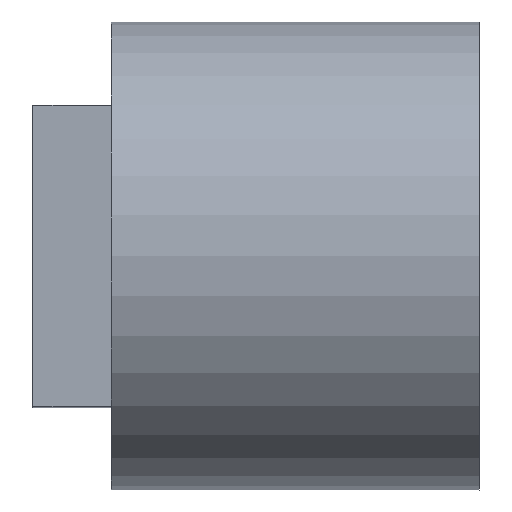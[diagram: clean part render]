
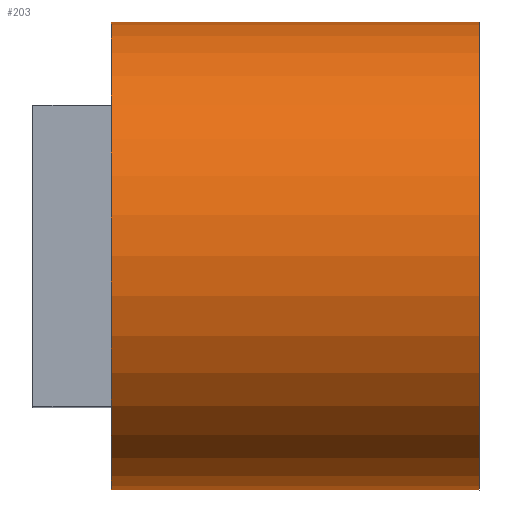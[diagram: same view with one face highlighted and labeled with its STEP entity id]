
A CAD part, top view. The second image highlights one B-rep face of the part: STEP entity #203.
In plain terms, the highlighted cylindrical face has radius 7 mm (diameter 14 mm), a full revolution.
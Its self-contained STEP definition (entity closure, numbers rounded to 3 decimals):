
#64 = VERTEX_POINT('',#65);
#65 = CARTESIAN_POINT('',(-65.375,-4.5,95.688));
#87 = VERTEX_POINT('',#88);
#88 = CARTESIAN_POINT('',(-72.025,-4.5,95.688));
#94 = EDGE_CURVE('',#87,#64,#95,.T.);
#95 = LINE('',#96,#97);
#96 = CARTESIAN_POINT('',(-72.025,-4.5,95.688));
#97 = VECTOR('',#98,1.);
#98 = DIRECTION('',(1.,0.,0.));
#135 = VERTEX_POINT('',#136);
#136 = CARTESIAN_POINT('',(-65.375,4.5,95.688));
#151 = VERTEX_POINT('',#152);
#152 = CARTESIAN_POINT('',(-72.025,4.5,95.688));
#158 = EDGE_CURVE('',#151,#135,#159,.T.);
#159 = LINE('',#160,#161);
#160 = CARTESIAN_POINT('',(-72.025,4.5,95.688));
#161 = VECTOR('',#162,1.);
#162 = DIRECTION('',(1.,0.,0.));
#192 = EDGE_CURVE('',#64,#135,#193,.T.);
#193 = CIRCLE('',#194,7.);
#194 = AXIS2_PLACEMENT_3D('',#195,#196,#197);
#195 = CARTESIAN_POINT('',(-65.375,0.,101.05));
#196 = DIRECTION('',(1.,0.,-0.));
#197 = DIRECTION('',(0.,0.,1.));
#203 = ADVANCED_FACE('',(#204),#241,.T.);
#204 = FACE_BOUND('',#205,.T.);
#205 = EDGE_LOOP('',(#206,#216,#223,#224,#231,#232,#233,#234));
#206 = ORIENTED_EDGE('',*,*,#207,.T.);
#207 = EDGE_CURVE('',#208,#210,#212,.T.);
#208 = VERTEX_POINT('',#209);
#209 = CARTESIAN_POINT('',(-72.025,0.,108.05));
#210 = VERTEX_POINT('',#211);
#211 = CARTESIAN_POINT('',(-61.025,0.,108.05));
#212 = LINE('',#213,#214);
#213 = CARTESIAN_POINT('',(-72.025,0.,108.05));
#214 = VECTOR('',#215,1.);
#215 = DIRECTION('',(1.,0.,0.));
#216 = ORIENTED_EDGE('',*,*,#217,.F.);
#217 = EDGE_CURVE('',#210,#210,#218,.T.);
#218 = CIRCLE('',#219,7.);
#219 = AXIS2_PLACEMENT_3D('',#220,#221,#222);
#220 = CARTESIAN_POINT('',(-61.025,0.,101.05));
#221 = DIRECTION('',(1.,0.,-0.));
#222 = DIRECTION('',(0.,0.,1.));
#223 = ORIENTED_EDGE('',*,*,#207,.F.);
#224 = ORIENTED_EDGE('',*,*,#225,.T.);
#225 = EDGE_CURVE('',#208,#87,#226,.T.);
#226 = CIRCLE('',#227,7.);
#227 = AXIS2_PLACEMENT_3D('',#228,#229,#230);
#228 = CARTESIAN_POINT('',(-72.025,0.,101.05));
#229 = DIRECTION('',(1.,0.,-0.));
#230 = DIRECTION('',(0.,0.,1.));
#231 = ORIENTED_EDGE('',*,*,#94,.T.);
#232 = ORIENTED_EDGE('',*,*,#192,.T.);
#233 = ORIENTED_EDGE('',*,*,#158,.F.);
#234 = ORIENTED_EDGE('',*,*,#235,.T.);
#235 = EDGE_CURVE('',#151,#208,#236,.T.);
#236 = CIRCLE('',#237,7.);
#237 = AXIS2_PLACEMENT_3D('',#238,#239,#240);
#238 = CARTESIAN_POINT('',(-72.025,0.,101.05));
#239 = DIRECTION('',(1.,0.,-0.));
#240 = DIRECTION('',(0.,0.,1.));
#241 = CYLINDRICAL_SURFACE('',#242,7.);
#242 = AXIS2_PLACEMENT_3D('',#243,#244,#245);
#243 = CARTESIAN_POINT('',(-72.025,0.,101.05));
#244 = DIRECTION('',(1.,0.,0.));
#245 = DIRECTION('',(0.,0.,1.));
